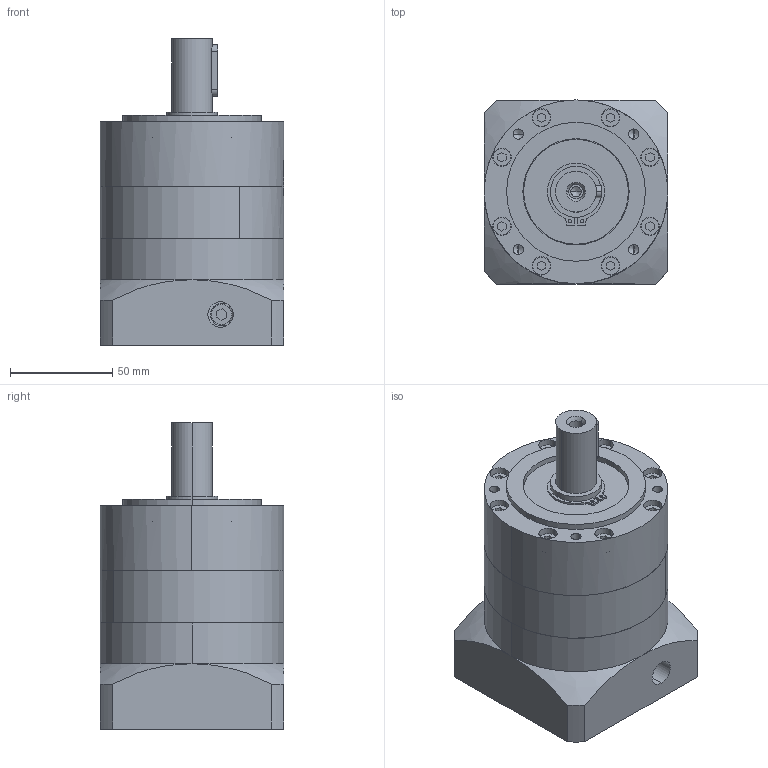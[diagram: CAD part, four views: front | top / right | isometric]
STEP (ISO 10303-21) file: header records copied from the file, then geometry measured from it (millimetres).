
FILE_DESCRIPTION (( 'STEP AP203' ), '1' );
FILE_NAME ('PLE090-L1-19-70-90.STEP', '2022-07-04T06:38:35', ( 'Windows User' ), ( 'P R C' ), 'SwSTEP 2.0', 'SolidWorks 2016', '' );
FILE_SCHEMA (( 'CONFIG_CONTROL_DESIGN' ));
Length unit declared in the file: millimetre
Products named in the file (8): PLE090蟀諉啣; PLE090奻屳唳; PLE090-L1-19-70-90; PLE090內齿圈-优化_一级内齿圈; PLE090狟屳唳19-70-90梓袧; 囀鞠褒蹟佪 M6x20; 邧埴瑩 6x6x25; 粣創-6007 35x62x14
Assembly tree (7 placements, depth 2):
  PLE090-L1-19-70-90
    PLE090內齿圈-优化_一级内齿圈
    PLE090狟屳唳19-70-90梓袧
    囀鞠褒蹟佪 M6x20
    邧埴瑩 6x6x25
    粣創-6007 35x62x14
    PLE090蟀諉啣
    PLE090奻屳唳
Bounding box: 90 x 90 x 150 mm (x, y, z)
Volume: 661526.3 mm3; surface area: 142428.6 mm2
Topology: 7 solids, 7 shells, 1054 faces, 2849 edges, 1880 vertices
Faces by surface type: plane 547, cylinder 196, bspline 147, sphere 88, torus 54, cone 22
Entity records: 42905 total; most frequent: CARTESIAN_POINT 16575, ORIENTED_EDGE 5662, DIRECTION 4740, EDGE_CURVE 2831, VERTEX_POINT 1880, AXIS2_PLACEMENT_3D 1670, LINE 1400, VECTOR 1400
